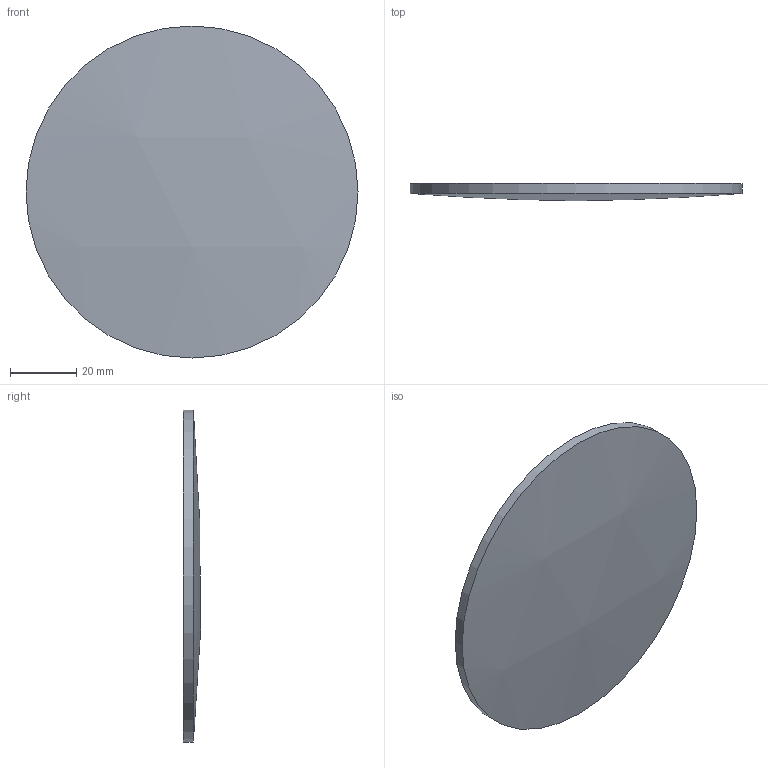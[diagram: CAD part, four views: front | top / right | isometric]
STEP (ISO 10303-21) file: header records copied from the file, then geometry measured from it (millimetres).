
FILE_DESCRIPTION((''),'2;1');
FILE_NAME('Y:\メカ関係\2能登便\素子ﾓﾃﾞﾙ（角屋さま野中さま⇒川島）\5月分\1_球面平凸レンズ-BK7\SLB-P\φ100\SLB-100-1000P\SLB-100-1000P.stp','2009-05-26T16:50:04',('usernoto011'),(''),'Autodesk Inventor 2008','Autodesk Inventor 2008','');
FILE_SCHEMA(('AUTOMOTIVE_DESIGN { 1 0 10303 214 1 1 1 1 }'));
Length unit declared in the file: millimetre
Products named in the file (1): SLB-100-1000P
Bounding box: 100 x 5.13 x 100 mm (x, y, z)
Volume: 32938.7 mm3; surface area: 16664.4 mm2
Topology: 1 solids, 1 shells, 3 faces, 3 edges, 2 vertices
Faces by surface type: sphere 1, cylinder 1, plane 1
Full cylindrical faces by diameter (mm): 100 x1
Entity records: 80 total; most frequent: DIRECTION 12, CARTESIAN_POINT 8, AXIS2_PLACEMENT_3D 6, ORIENTED_EDGE 4, EDGE_LOOP 4, FACE_OUTER_BOUND 3, ADVANCED_FACE 3, DIMENSIONAL_EXPONENTS 2
